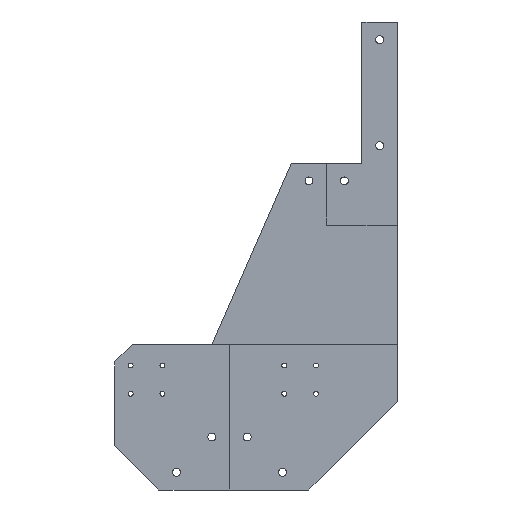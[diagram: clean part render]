
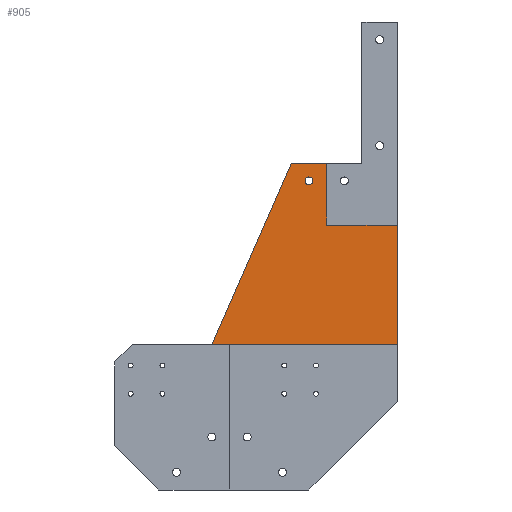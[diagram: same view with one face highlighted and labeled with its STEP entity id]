
A CAD part, left-side view. The second image highlights one B-rep face of the part: STEP entity #905.
In plain terms, the highlighted planar face has unit normal (-1, 0, 0).
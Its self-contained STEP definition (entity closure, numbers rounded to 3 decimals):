
#61=FACE_BOUND('',#198,.T.);
#92=PLANE('',#1023);
#132=FACE_OUTER_BOUND('',#197,.T.);
#197=EDGE_LOOP('',(#759,#760,#761,#762,#763,#764));
#198=EDGE_LOOP('',(#765));
#279=LINE('',#1465,#364);
#281=LINE('',#1469,#366);
#282=LINE('',#1471,#367);
#283=LINE('',#1473,#368);
#284=LINE('',#1475,#369);
#285=LINE('',#1476,#370);
#364=VECTOR('',#1206,10.);
#366=VECTOR('',#1210,10.);
#367=VECTOR('',#1211,10.);
#368=VECTOR('',#1212,10.);
#369=VECTOR('',#1213,10.);
#370=VECTOR('',#1214,10.);
#420=CIRCLE('',#1024,4.5);
#478=VERTEX_POINT('',#1462);
#479=VERTEX_POINT('',#1464);
#480=VERTEX_POINT('',#1468);
#481=VERTEX_POINT('',#1470);
#482=VERTEX_POINT('',#1472);
#483=VERTEX_POINT('',#1474);
#484=VERTEX_POINT('',#1477);
#577=EDGE_CURVE('',#479,#478,#279,.T.);
#579=EDGE_CURVE('',#480,#478,#281,.T.);
#580=EDGE_CURVE('',#480,#481,#282,.T.);
#581=EDGE_CURVE('',#481,#482,#283,.T.);
#582=EDGE_CURVE('',#482,#483,#284,.T.);
#583=EDGE_CURVE('',#483,#479,#285,.T.);
#584=EDGE_CURVE('',#484,#484,#420,.T.);
#759=ORIENTED_EDGE('',*,*,#577,.T.);
#760=ORIENTED_EDGE('',*,*,#579,.F.);
#761=ORIENTED_EDGE('',*,*,#580,.T.);
#762=ORIENTED_EDGE('',*,*,#581,.T.);
#763=ORIENTED_EDGE('',*,*,#582,.T.);
#764=ORIENTED_EDGE('',*,*,#583,.T.);
#765=ORIENTED_EDGE('',*,*,#584,.T.);
#905=ADVANCED_FACE('',(#132,#61),#92,.F.);
#1023=AXIS2_PLACEMENT_3D('',#1467,#1208,#1209);
#1024=AXIS2_PLACEMENT_3D('',#1478,#1215,#1216);
#1206=DIRECTION('',(0.,-1.,0.));
#1208=DIRECTION('center_axis',(1.,0.,0.));
#1209=DIRECTION('ref_axis',(0.,1.,0.));
#1210=DIRECTION('',(0.,0.,-1.));
#1211=DIRECTION('',(0.,1.,0.));
#1212=DIRECTION('',(0.,0.,1.));
#1213=DIRECTION('',(0.,1.,0.));
#1214=DIRECTION('',(0.,0.402,-0.916));
#1215=DIRECTION('center_axis',(1.,0.,0.));
#1216=DIRECTION('ref_axis',(0.,1.,0.));
#1462=CARTESIAN_POINT('',(0.,0.,165.));
#1464=CARTESIAN_POINT('',(0.,210.,165.));
#1465=CARTESIAN_POINT('',(0.,160.,165.));
#1467=CARTESIAN_POINT('Origin',(0.,160.,265.));
#1468=CARTESIAN_POINT('',(0.,0.,300.));
#1469=CARTESIAN_POINT('',(0.,0.,530.));
#1470=CARTESIAN_POINT('',(0.,80.,300.));
#1471=CARTESIAN_POINT('',(0.,80.,300.));
#1472=CARTESIAN_POINT('',(0.,80.,370.));
#1473=CARTESIAN_POINT('',(0.,80.,282.5));
#1474=CARTESIAN_POINT('',(0.,120.,370.));
#1475=CARTESIAN_POINT('',(0.,40.,370.));
#1476=CARTESIAN_POINT('',(0.,120.,370.));
#1477=CARTESIAN_POINT('',(0.,95.5,350.));
#1478=CARTESIAN_POINT('Origin',(0.,100.,350.));
